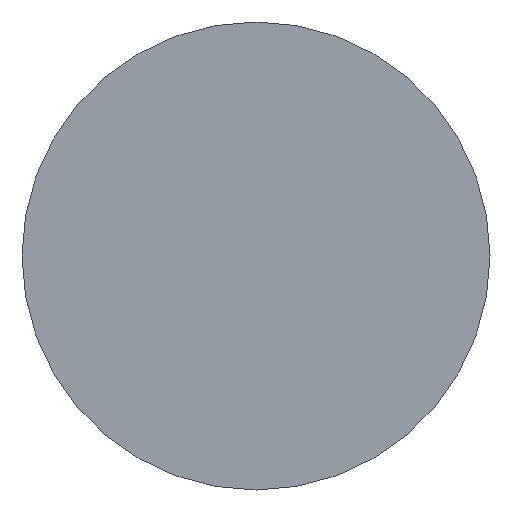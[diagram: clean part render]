
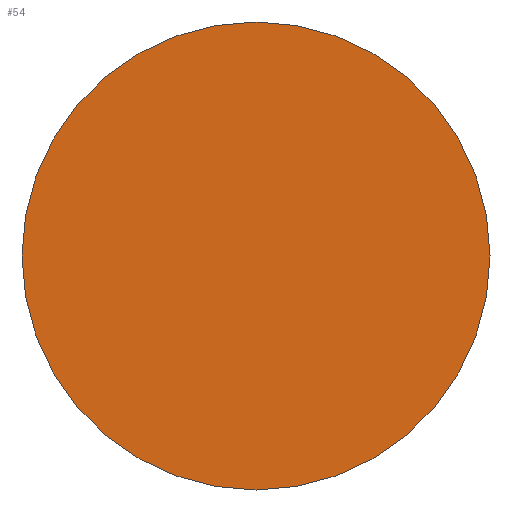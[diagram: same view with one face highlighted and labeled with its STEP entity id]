
A CAD part, left-side view. The second image highlights one B-rep face of the part: STEP entity #54.
In plain terms, the highlighted planar face has unit normal (-1, 0, 0).
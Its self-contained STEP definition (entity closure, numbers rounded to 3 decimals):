
#15 = DIRECTION ( 'NONE',  ( 0., -1., 0. ) ) ;
#36 = EDGE_CURVE ( 'NONE', #77, #130, #51, .T. ) ;
#38 = AXIS2_PLACEMENT_3D ( 'NONE', #164, #46, #116 ) ;
#39 = ORIENTED_EDGE ( 'NONE', *, *, #167, .F. ) ;
#46 = DIRECTION ( 'NONE',  ( 1., 0., 0. ) ) ;
#51 = CIRCLE ( 'NONE', #38, 6. ) ;
#53 = PLANE ( 'NONE',  #198 ) ;
#54 = ADVANCED_FACE ( 'NONE', ( #66 ), #53, .T. ) ;
#66 = FACE_OUTER_BOUND ( 'NONE', #174, .T. ) ;
#77 = VERTEX_POINT ( 'NONE', #236 ) ;
#97 = CARTESIAN_POINT ( 'NONE',  ( 0., -6., 0. ) ) ;
#116 = DIRECTION ( 'NONE',  ( 0., 1., 0. ) ) ;
#127 = ORIENTED_EDGE ( 'NONE', *, *, #36, .F. ) ;
#130 = VERTEX_POINT ( 'NONE', #97 ) ;
#158 = CARTESIAN_POINT ( 'NONE',  ( 0., 0., 0. ) ) ;
#164 = CARTESIAN_POINT ( 'NONE',  ( 0., 0., 0. ) ) ;
#167 = EDGE_CURVE ( 'NONE', #130, #77, #232, .T. ) ;
#174 = EDGE_LOOP ( 'NONE', ( #127, #39 ) ) ;
#177 = DIRECTION ( 'NONE',  ( -1., 0., 0. ) ) ;
#191 = CARTESIAN_POINT ( 'NONE',  ( 0., 0., 0. ) ) ;
#198 = AXIS2_PLACEMENT_3D ( 'NONE', #191, #177, #15 ) ;
#199 = DIRECTION ( 'NONE',  ( 0., 1., 0. ) ) ;
#213 = AXIS2_PLACEMENT_3D ( 'NONE', #158, #230, #199 ) ;
#230 = DIRECTION ( 'NONE',  ( 1., 0., 0. ) ) ;
#232 = CIRCLE ( 'NONE', #213, 6. ) ;
#236 = CARTESIAN_POINT ( 'NONE',  ( 0., 6., 0. ) ) ;
